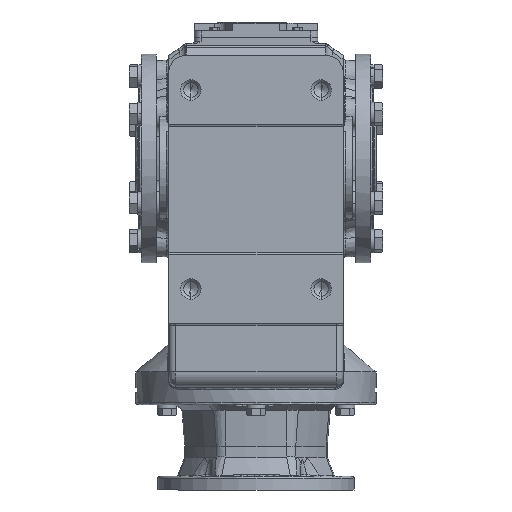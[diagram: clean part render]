
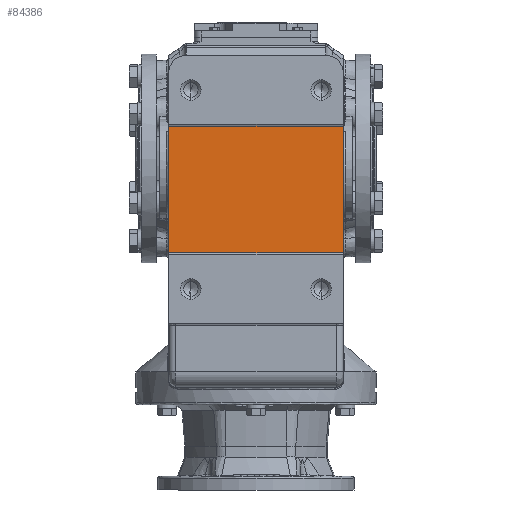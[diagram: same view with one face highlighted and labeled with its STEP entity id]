
A CAD part, front view. The second image highlights one B-rep face of the part: STEP entity #84386.
In plain terms, the highlighted planar face has unit normal (0, -1, 0).
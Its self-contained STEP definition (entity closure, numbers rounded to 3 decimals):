
#6201 = FACE_OUTER_BOUND ( 'NONE', #49368, .T. ) ;
#49368 = EDGE_LOOP ( 'NONE', ( #93257, #93258, #93259, #93260 ) ) ;
#65163 = CARTESIAN_POINT ( 'NONE',  ( -127., -310., 47. ) ) ;
#65172 = DIRECTION ( 'NONE',  ( -1., 0., 0. ) ) ;
#65175 = DIRECTION ( 'NONE',  ( 0., 0., -1. ) ) ;
#65184 = CARTESIAN_POINT ( 'NONE',  ( -127., -310., -333. ) ) ;
#65198 = CARTESIAN_POINT ( 'NONE',  ( 102., -310., -137. ) ) ;
#65201 = DIRECTION ( 'NONE',  ( 1., 0., 0. ) ) ;
#65203 = CARTESIAN_POINT ( 'NONE',  ( 127., -310., -92.487 ) ) ;
#65206 = DIRECTION ( 'NONE',  ( 0., 0., -1. ) ) ;
#67389 = CARTESIAN_POINT ( 'NONE',  ( 127., -310., -137. ) ) ;
#67410 = CARTESIAN_POINT ( 'NONE',  ( -127., -310., -137. ) ) ;
#67412 = CARTESIAN_POINT ( 'NONE',  ( -127., -310., 47. ) ) ;
#67416 = CARTESIAN_POINT ( 'NONE',  ( 127., -310., 47. ) ) ;
#77453 = CARTESIAN_POINT ( 'NONE',  ( -127., -310., -333. ) ) ;
#77458 = PLANE ( 'NONE',  #89510 ) ;
#77461 = DIRECTION ( 'NONE',  ( 0., -1., 0. ) ) ;
#77462 = DIRECTION ( 'NONE',  ( 0., 0., -1. ) ) ;
#84386 = ADVANCED_FACE ( 'NONE', ( #6201 ), #77458, .T. ) ;
#89510 = AXIS2_PLACEMENT_3D ( 'NONE', #77453, #77461, #77462 ) ;
#93257 = ORIENTED_EDGE ( 'NONE', *, *, #100282, .T. ) ;
#93258 = ORIENTED_EDGE ( 'NONE', *, *, #100283, .T. ) ;
#93259 = ORIENTED_EDGE ( 'NONE', *, *, #100284, .F. ) ;
#93260 = ORIENTED_EDGE ( 'NONE', *, *, #100278, .T. ) ;
#100278 = EDGE_CURVE ( 'NONE', #103780, #103779, #103303, .T. ) ;
#100282 = EDGE_CURVE ( 'NONE', #103779, #103778, #103327, .T. ) ;
#100283 = EDGE_CURVE ( 'NONE', #103778, #103772, #103329, .T. ) ;
#100284 = EDGE_CURVE ( 'NONE', #103780, #103772, #103333, .T. ) ;
#103303 = LINE ( 'NONE', #65163, #103319 ) ;
#103319 = VECTOR ( 'NONE', #65172, 1000. ) ;
#103327 = LINE ( 'NONE', #65184, #103331 ) ;
#103329 = LINE ( 'NONE', #65198, #103335 ) ;
#103331 = VECTOR ( 'NONE', #65175, 1000. ) ;
#103333 = LINE ( 'NONE', #65203, #103339 ) ;
#103335 = VECTOR ( 'NONE', #65201, 1000. ) ;
#103339 = VECTOR ( 'NONE', #65206, 1000. ) ;
#103772 = VERTEX_POINT ( 'NONE', #67389 ) ;
#103778 = VERTEX_POINT ( 'NONE', #67410 ) ;
#103779 = VERTEX_POINT ( 'NONE', #67412 ) ;
#103780 = VERTEX_POINT ( 'NONE', #67416 ) ;
